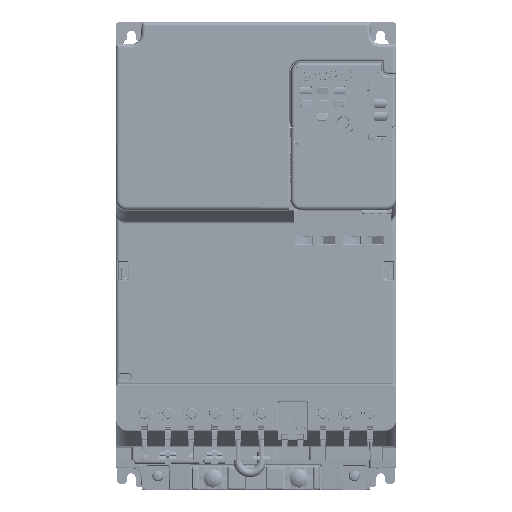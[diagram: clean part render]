
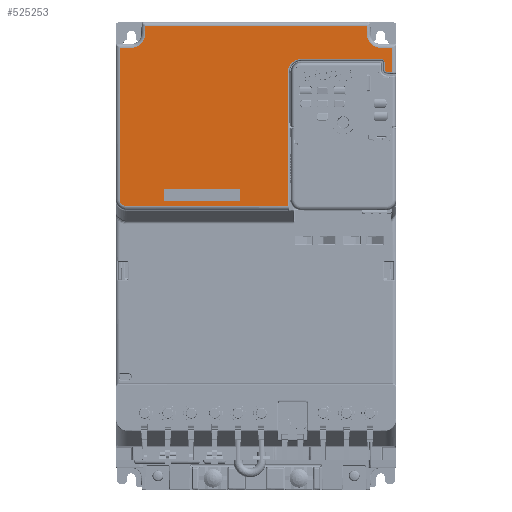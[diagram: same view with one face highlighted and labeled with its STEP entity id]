
A CAD part, top view. The second image highlights one B-rep face of the part: STEP entity #525253.
In plain terms, the highlighted planar face has unit normal (0, 0, 1).
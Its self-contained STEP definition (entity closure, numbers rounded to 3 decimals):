
#444799=CARTESIAN_POINT('',(-70.894,147.5,76.5));
#444805=DIRECTION('',(-0.999,0.052,0.));
#444806=VECTOR('',#444805,3.587);
#444807=CARTESIAN_POINT('',(87.5,117.748,
76.5));
#444808=LINE('',#444807,#444806);
#444809=CARTESIAN_POINT('',(84.,119.5,76.5));
#444810=DIRECTION('',(0.,0.,-1.));
#444811=DIRECTION('',(-0.052,-0.999,0.));
#444812=AXIS2_PLACEMENT_3D('',#444809,#444810,#444811);
#444814=CARTESIAN_POINT('',(29.,117.5,76.5));
#444815=DIRECTION('',(0.,0.,1.));
#444816=DIRECTION('',(0.,1.,0.));
#444817=AXIS2_PLACEMENT_3D('',#444814,#444815,#444816);
#444819=CARTESIAN_POINT('',(-82.997,36.394,
76.5));
#444820=DIRECTION('',(0.,0.,
-1.));
#444821=DIRECTION('',(-0.002,-1.,0.));
#444822=AXIS2_PLACEMENT_3D('',#444819,#444820,#444821);
#444824=CARTESIAN_POINT('',(-79.694,142.,76.5));
#444825=DIRECTION('',(0.,0.,1.));
#444826=DIRECTION('',(0.,-1.,0.));
#444827=AXIS2_PLACEMENT_3D('',#444824,#444825,#444826);
#444829=DIRECTION('',(0.052,0.999,0.));
#444830=VECTOR('',#444829,5.953);
#444831=CARTESIAN_POINT('',(-71.205,141.555,76.5));
#444832=LINE('',#444831,#444830);
#444833=DIRECTION('',(0.052,-0.999,0.));
#444834=VECTOR('',#444833,5.953);
#444835=CARTESIAN_POINT('',(70.894,147.5,76.5));
#444836=LINE('',#444835,#444834);
#444837=CARTESIAN_POINT('',(79.694,142.,76.5));
#444838=DIRECTION('',(0.,0.,1.));
#444839=DIRECTION('',(-0.999,-0.052,0.));
#444840=AXIS2_PLACEMENT_3D('',#444837,#444838,#444839);
#444842=DIRECTION('',(0.,1.,0.));
#444843=VECTOR('',#444842,15.752);
#444844=CARTESIAN_POINT('',(87.5,117.748,
76.5));
#444845=LINE('',#444844,#444843);
#444887=DIRECTION('',(-1.,0.,0.));
#444888=VECTOR('',#444887,7.806);
#444889=CARTESIAN_POINT('',(87.5,133.5,76.5));
#444890=LINE('',#444889,#444888);
#444948=DIRECTION('',(-1.,0.,0.));
#444949=VECTOR('',#444948,141.788);
#444950=CARTESIAN_POINT('',(70.894,147.5,76.5));
#444951=LINE('',#444950,#444949);
#454863=DIRECTION('',(1.,0.,0.));
#454864=VECTOR('',#454863,51.434);
#454865=CARTESIAN_POINT('',(29.,126.183,76.5));
#454866=LINE('',#454865,#454864);
#454867=CARTESIAN_POINT('',(80.434,126.183,
76.5));
#454868=CARTESIAN_POINT('',(80.65,126.183,
76.5));
#454869=CARTESIAN_POINT('',(81.059,126.117,
76.5));
#454870=CARTESIAN_POINT('',(81.63,125.828,
76.5));
#454871=CARTESIAN_POINT('',(82.079,125.379,
76.5));
#454872=CARTESIAN_POINT('',(82.367,124.808,
76.5));
#454873=CARTESIAN_POINT('',(82.433,124.4,
76.5));
#454874=CARTESIAN_POINT('',(82.433,124.184,
76.5));
#454886=DIRECTION('',(0.,-1.,0.));
#454887=VECTOR('',#454886,4.684);
#454888=CARTESIAN_POINT('',(82.433,124.184,
76.5));
#454889=LINE('',#454888,#454887);
#454940=DIRECTION('',(0.,1.,0.));
#454941=VECTOR('',#454940,85.608);
#454942=CARTESIAN_POINT('',(20.317,31.892,
76.5));
#454943=LINE('',#454942,#454941);
#455528=DIRECTION('',(0.,-1.,0.));
#455529=VECTOR('',#455528,97.101);
#455530=CARTESIAN_POINT('',(-87.5,133.5,76.5));
#455531=LINE('',#455530,#455529);
#455554=DIRECTION('',(-1.,0.,0.));
#455555=VECTOR('',#455554,7.806);
#455556=CARTESIAN_POINT('',(-79.694,133.5,76.5));
#455557=LINE('',#455556,#455555);
#455784=DIRECTION('',(1.,0.,0.));
#455785=VECTOR('',#455784,103.318);
#455786=CARTESIAN_POINT('',(-83.001,31.892,
76.5));
#455787=LINE('',#455786,#455785);
#500710=VERTEX_POINT('',#444799);
#500711=CARTESIAN_POINT('',(-71.205,141.555,76.5));
#500712=VERTEX_POINT('',#500711);
#500715=CARTESIAN_POINT('',(87.5,117.748,
76.5));
#500716=CARTESIAN_POINT('',(87.5,133.5,76.5));
#500717=VERTEX_POINT('',#500715);
#500718=VERTEX_POINT('',#500716);
#500719=CARTESIAN_POINT('',(83.918,117.936,76.5));
#500720=VERTEX_POINT('',#500719);
#500721=CARTESIAN_POINT('',(82.433,119.5,76.5));
#500722=VERTEX_POINT('',#500721);
#500723=CARTESIAN_POINT('',(82.433,124.184,
76.5));
#500724=VERTEX_POINT('',#500723);
#500725=VERTEX_POINT('',#454867);
#500726=CARTESIAN_POINT('',(29.,126.183,76.5));
#500727=VERTEX_POINT('',#500726);
#500728=CARTESIAN_POINT('',(20.317,117.5,76.5));
#500729=VERTEX_POINT('',#500728);
#500730=CARTESIAN_POINT('',(20.317,31.892,
76.5));
#500731=VERTEX_POINT('',#500730);
#500732=CARTESIAN_POINT('',(-83.001,31.892,
76.5));
#500733=VERTEX_POINT('',#500732);
#500734=CARTESIAN_POINT('',(-87.5,36.402,
76.5));
#500735=VERTEX_POINT('',#500734);
#500736=CARTESIAN_POINT('',(-87.5,133.5,76.5));
#500737=VERTEX_POINT('',#500736);
#500738=CARTESIAN_POINT('',(-79.694,133.5,76.5));
#500739=VERTEX_POINT('',#500738);
#500740=CARTESIAN_POINT('',(70.894,147.5,76.5));
#500741=VERTEX_POINT('',#500740);
#500742=CARTESIAN_POINT('',(71.205,141.555,76.5));
#500743=VERTEX_POINT('',#500742);
#500744=CARTESIAN_POINT('',(79.694,133.5,76.5));
#500745=VERTEX_POINT('',#500744);
#525211=CARTESIAN_POINT('',(0.,0.,76.5));
#525212=DIRECTION('',(0.,0.,1.));
#525213=DIRECTION('',(1.,0.,0.));
#525214=AXIS2_PLACEMENT_3D('',#525211,#525212,#525213);
#525215=PLANE('',#525214);
#525217=ORIENTED_EDGE('',*,*,#525216,.F.);
#525219=ORIENTED_EDGE('',*,*,#525218,.T.);
#525221=ORIENTED_EDGE('',*,*,#525220,.T.);
#525223=ORIENTED_EDGE('',*,*,#525222,.F.);
#525225=ORIENTED_EDGE('',*,*,#525224,.F.);
#525227=ORIENTED_EDGE('',*,*,#525226,.F.);
#525229=ORIENTED_EDGE('',*,*,#525228,.T.);
#525231=ORIENTED_EDGE('',*,*,#525230,.F.);
#525233=ORIENTED_EDGE('',*,*,#525232,.F.);
#525235=ORIENTED_EDGE('',*,*,#525234,.T.);
#525237=ORIENTED_EDGE('',*,*,#525236,.F.);
#525239=ORIENTED_EDGE('',*,*,#525238,.F.);
#525241=ORIENTED_EDGE('',*,*,#525240,.T.);
#525242=ORIENTED_EDGE('',*,*,#525202,.T.);
#525244=ORIENTED_EDGE('',*,*,#525243,.F.);
#525246=ORIENTED_EDGE('',*,*,#525245,.T.);
#525248=ORIENTED_EDGE('',*,*,#525247,.T.);
#525250=ORIENTED_EDGE('',*,*,#525249,.F.);
#525251=EDGE_LOOP('',(#525217,#525219,#525221,#525223,#525225,#525227,#525229,
#525231,#525233,#525235,#525237,#525239,#525241,#525242,#525244,#525246,#525248,
#525250));
#525252=FACE_OUTER_BOUND('',#525251,.F.);
#525253=ADVANCED_FACE('',(#525252),#525215,.T.);
#444813=CIRCLE('',#444812,1.567);
#444818=CIRCLE('',#444817,8.683);
#444823=CIRCLE('',#444822,4.503);
#444828=CIRCLE('',#444827,8.5);
#444841=CIRCLE('',#444840,8.5);
#454875=B_SPLINE_CURVE_WITH_KNOTS('',3,(#454867,#454868,#454869,#454870,#454871,
#454872,#454873,#454874),.UNSPECIFIED.,.F.,.F.,(4,1,1,1,1,4),(0.,0.2,0.4,
0.6,0.8,1.),.UNSPECIFIED.);
#525202=EDGE_CURVE('',#500712,#500710,#444832,.T.);
#525216=EDGE_CURVE('',#500717,#500718,#444845,.T.);
#525218=EDGE_CURVE('',#500717,#500720,#444808,.T.);
#525220=EDGE_CURVE('',#500720,#500722,#444813,.T.);
#525222=EDGE_CURVE('',#500724,#500722,#454889,.T.);
#525224=EDGE_CURVE('',#500725,#500724,#454875,.T.);
#525226=EDGE_CURVE('',#500727,#500725,#454866,.T.);
#525228=EDGE_CURVE('',#500727,#500729,#444818,.T.);
#525230=EDGE_CURVE('',#500731,#500729,#454943,.T.);
#525232=EDGE_CURVE('',#500733,#500731,#455787,.T.);
#525234=EDGE_CURVE('',#500733,#500735,#444823,.T.);
#525236=EDGE_CURVE('',#500737,#500735,#455531,.T.);
#525238=EDGE_CURVE('',#500739,#500737,#455557,.T.);
#525240=EDGE_CURVE('',#500739,#500712,#444828,.T.);
#525243=EDGE_CURVE('',#500741,#500710,#444951,.T.);
#525245=EDGE_CURVE('',#500741,#500743,#444836,.T.);
#525247=EDGE_CURVE('',#500743,#500745,#444841,.T.);
#525249=EDGE_CURVE('',#500718,#500745,#444890,.T.);
